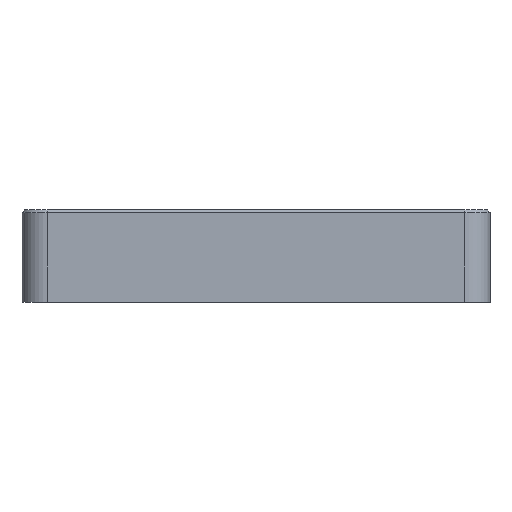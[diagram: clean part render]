
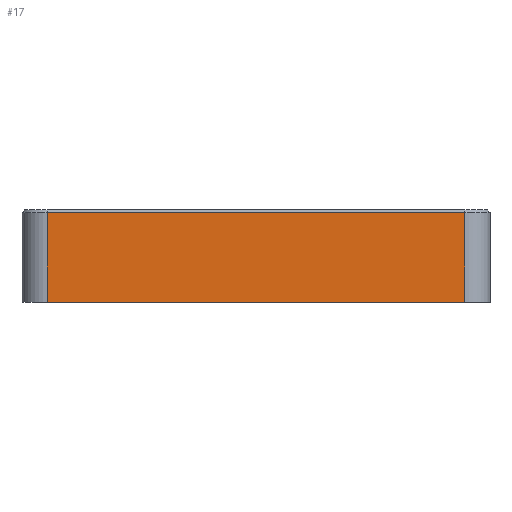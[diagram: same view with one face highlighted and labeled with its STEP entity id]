
A CAD part, left-side view. The second image highlights one B-rep face of the part: STEP entity #17.
In plain terms, the highlighted planar face has unit normal (-1, 0, 0).
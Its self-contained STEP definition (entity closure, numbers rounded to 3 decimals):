
#17 = ADVANCED_FACE('',(#18),#32,.F.);
#18 = FACE_BOUND('',#19,.T.);
#19 = EDGE_LOOP('',(#20,#55,#83,#111));
#20 = ORIENTED_EDGE('',*,*,#21,.F.);
#21 = EDGE_CURVE('',#22,#24,#26,.T.);
#22 = VERTEX_POINT('',#23);
#23 = CARTESIAN_POINT('',(-39.5,-24.9,11.65));
#24 = VERTEX_POINT('',#25);
#25 = CARTESIAN_POINT('',(-39.5,-24.9,1.));
#26 = SURFACE_CURVE('',#27,(#31,#43),.PCURVE_S1.);
#27 = LINE('',#28,#29);
#28 = CARTESIAN_POINT('',(-39.5,-24.9,12.));
#29 = VECTOR('',#30,1.);
#30 = DIRECTION('',(-0.,-0.,-1.));
#31 = PCURVE('',#32,#37);
#32 = PLANE('',#33);
#33 = AXIS2_PLACEMENT_3D('',#34,#35,#36);
#34 = CARTESIAN_POINT('',(-39.5,-27.9,12.));
#35 = DIRECTION('',(1.,0.,-0.));
#36 = DIRECTION('',(0.,0.,1.));
#37 = DEFINITIONAL_REPRESENTATION('',(#38),#42);
#38 = LINE('',#39,#40);
#39 = CARTESIAN_POINT('',(-0.,-3.));
#40 = VECTOR('',#41,1.);
#41 = DIRECTION('',(-1.,0.));
#42 = ( GEOMETRIC_REPRESENTATION_CONTEXT(2) 
PARAMETRIC_REPRESENTATION_CONTEXT() REPRESENTATION_CONTEXT('2D SPACE',''
  ) );
#43 = PCURVE('',#44,#49);
#44 = CYLINDRICAL_SURFACE('',#45,3.);
#45 = AXIS2_PLACEMENT_3D('',#46,#47,#48);
#46 = CARTESIAN_POINT('',(-36.5,-24.9,12.));
#47 = DIRECTION('',(-0.,-0.,-1.));
#48 = DIRECTION('',(-1.,-0.,-0.));
#49 = DEFINITIONAL_REPRESENTATION('',(#50),#54);
#50 = LINE('',#51,#52);
#51 = CARTESIAN_POINT('',(-0.,0.));
#52 = VECTOR('',#53,1.);
#53 = DIRECTION('',(-0.,1.));
#54 = ( GEOMETRIC_REPRESENTATION_CONTEXT(2) 
PARAMETRIC_REPRESENTATION_CONTEXT() REPRESENTATION_CONTEXT('2D SPACE',''
  ) );
#55 = ORIENTED_EDGE('',*,*,#56,.T.);
#56 = EDGE_CURVE('',#22,#57,#59,.T.);
#57 = VERTEX_POINT('',#58);
#58 = CARTESIAN_POINT('',(-39.5,24.9,11.65));
#59 = SURFACE_CURVE('',#60,(#64,#71),.PCURVE_S1.);
#60 = LINE('',#61,#62);
#61 = CARTESIAN_POINT('',(-39.5,-24.9,11.65));
#62 = VECTOR('',#63,1.);
#63 = DIRECTION('',(-0.,1.,-0.));
#64 = PCURVE('',#32,#65);
#65 = DEFINITIONAL_REPRESENTATION('',(#66),#70);
#66 = LINE('',#67,#68);
#67 = CARTESIAN_POINT('',(-0.35,-3.));
#68 = VECTOR('',#69,1.);
#69 = DIRECTION('',(-0.,-1.));
#70 = ( GEOMETRIC_REPRESENTATION_CONTEXT(2) 
PARAMETRIC_REPRESENTATION_CONTEXT() REPRESENTATION_CONTEXT('2D SPACE',''
  ) );
#71 = PCURVE('',#72,#77);
#72 = PLANE('',#73);
#73 = AXIS2_PLACEMENT_3D('',#74,#75,#76);
#74 = CARTESIAN_POINT('',(-39.325,-24.9,11.825));
#75 = DIRECTION('',(-0.707,0.,0.707)
  );
#76 = DIRECTION('',(0.,-1.,0.));
#77 = DEFINITIONAL_REPRESENTATION('',(#78),#82);
#78 = LINE('',#79,#80);
#79 = CARTESIAN_POINT('',(0.,-0.247));
#80 = VECTOR('',#81,1.);
#81 = DIRECTION('',(-1.,0.));
#82 = ( GEOMETRIC_REPRESENTATION_CONTEXT(2) 
PARAMETRIC_REPRESENTATION_CONTEXT() REPRESENTATION_CONTEXT('2D SPACE',''
  ) );
#83 = ORIENTED_EDGE('',*,*,#84,.T.);
#84 = EDGE_CURVE('',#57,#85,#87,.T.);
#85 = VERTEX_POINT('',#86);
#86 = CARTESIAN_POINT('',(-39.5,24.9,1.));
#87 = SURFACE_CURVE('',#88,(#92,#99),.PCURVE_S1.);
#88 = LINE('',#89,#90);
#89 = CARTESIAN_POINT('',(-39.5,24.9,12.));
#90 = VECTOR('',#91,1.);
#91 = DIRECTION('',(-0.,-0.,-1.));
#92 = PCURVE('',#32,#93);
#93 = DEFINITIONAL_REPRESENTATION('',(#94),#98);
#94 = LINE('',#95,#96);
#95 = CARTESIAN_POINT('',(-0.,-52.8));
#96 = VECTOR('',#97,1.);
#97 = DIRECTION('',(-1.,0.));
#98 = ( GEOMETRIC_REPRESENTATION_CONTEXT(2) 
PARAMETRIC_REPRESENTATION_CONTEXT() REPRESENTATION_CONTEXT('2D SPACE',''
  ) );
#99 = PCURVE('',#100,#105);
#100 = CYLINDRICAL_SURFACE('',#101,3.);
#101 = AXIS2_PLACEMENT_3D('',#102,#103,#104);
#102 = CARTESIAN_POINT('',(-36.5,24.9,12.));
#103 = DIRECTION('',(-0.,-0.,-1.));
#104 = DIRECTION('',(-1.,-0.,-0.));
#105 = DEFINITIONAL_REPRESENTATION('',(#106),#110);
#106 = LINE('',#107,#108);
#107 = CARTESIAN_POINT('',(0.,0.));
#108 = VECTOR('',#109,1.);
#109 = DIRECTION('',(0.,1.));
#110 = ( GEOMETRIC_REPRESENTATION_CONTEXT(2) 
PARAMETRIC_REPRESENTATION_CONTEXT() REPRESENTATION_CONTEXT('2D SPACE',''
  ) );
#111 = ORIENTED_EDGE('',*,*,#112,.F.);
#112 = EDGE_CURVE('',#24,#85,#113,.T.);
#113 = SURFACE_CURVE('',#114,(#118,#125),.PCURVE_S1.);
#114 = LINE('',#115,#116);
#115 = CARTESIAN_POINT('',(-39.5,-27.9,1.));
#116 = VECTOR('',#117,1.);
#117 = DIRECTION('',(-0.,1.,0.));
#118 = PCURVE('',#32,#119);
#119 = DEFINITIONAL_REPRESENTATION('',(#120),#124);
#120 = LINE('',#121,#122);
#121 = CARTESIAN_POINT('',(-11.,0.));
#122 = VECTOR('',#123,1.);
#123 = DIRECTION('',(-0.,-1.));
#124 = ( GEOMETRIC_REPRESENTATION_CONTEXT(2) 
PARAMETRIC_REPRESENTATION_CONTEXT() REPRESENTATION_CONTEXT('2D SPACE',''
  ) );
#125 = PCURVE('',#126,#131);
#126 = PLANE('',#127);
#127 = AXIS2_PLACEMENT_3D('',#128,#129,#130);
#128 = CARTESIAN_POINT('',(-39.5,-27.9,1.));
#129 = DIRECTION('',(-0.,-0.,-1.));
#130 = DIRECTION('',(-1.,0.,0.));
#131 = DEFINITIONAL_REPRESENTATION('',(#132),#136);
#132 = LINE('',#133,#134);
#133 = CARTESIAN_POINT('',(-0.,0.));
#134 = VECTOR('',#135,1.);
#135 = DIRECTION('',(-0.,1.));
#136 = ( GEOMETRIC_REPRESENTATION_CONTEXT(2) 
PARAMETRIC_REPRESENTATION_CONTEXT() REPRESENTATION_CONTEXT('2D SPACE',''
  ) );
